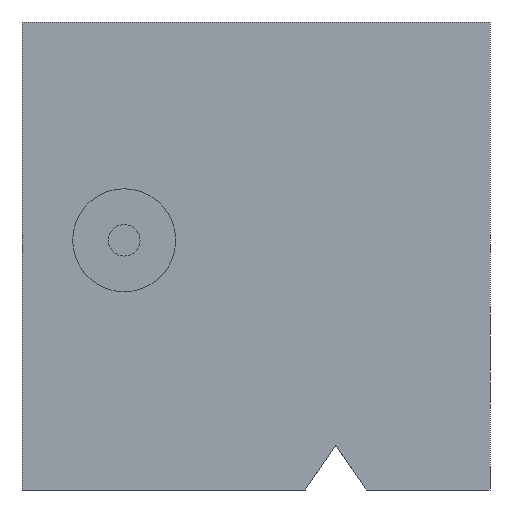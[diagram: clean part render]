
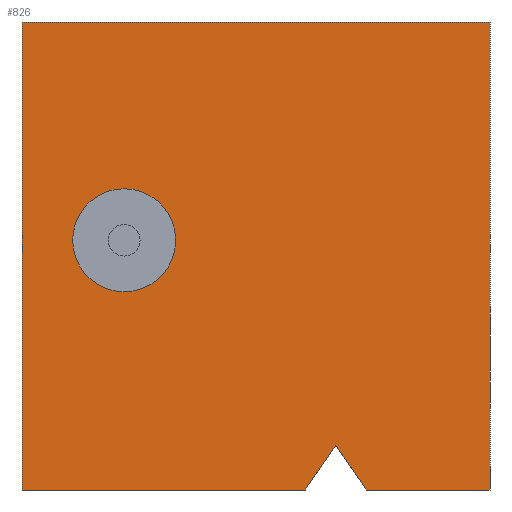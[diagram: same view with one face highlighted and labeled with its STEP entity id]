
A CAD part, left-side view. The second image highlights one B-rep face of the part: STEP entity #826.
In plain terms, the highlighted planar face has unit normal (-1, 0, 0).
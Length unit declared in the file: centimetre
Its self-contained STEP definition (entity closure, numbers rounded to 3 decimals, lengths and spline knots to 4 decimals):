
#21 = LINE ( 'NONE', #404, #375 ) ;
#23 = ORIENTED_EDGE ( 'NONE', *, *, #548, .T. ) ;
#34 = DIRECTION ( 'NONE',  ( 0., -1., 0. ) ) ;
#69 = CARTESIAN_POINT ( 'NONE',  ( 0., 329.6012, 95.3428 ) ) ;
#81 = LINE ( 'NONE', #69, #947 ) ;
#82 = EDGE_CURVE ( 'NONE', #157, #607, #126, .T. ) ;
#84 = DIRECTION ( 'NONE',  ( 0., -0.565, 0.825 ) ) ;
#101 = CARTESIAN_POINT ( 'NONE',  ( 0., 329.6012, 95.3428 ) ) ;
#119 = CARTESIAN_POINT ( 'NONE',  ( 0., 781.7001, 643.6645 ) ) ;
#124 = CARTESIAN_POINT ( 'NONE',  ( 0., 1000., 1000. ) ) ;
#126 = LINE ( 'NONE', #671, #842 ) ;
#135 = CARTESIAN_POINT ( 'NONE',  ( 0., 781.7001, 533.6208 ) ) ;
#151 = DIRECTION ( 'NONE',  ( 0., 0., 1. ) ) ;
#157 = VERTEX_POINT ( 'NONE', #229 ) ;
#164 = ORIENTED_EDGE ( 'NONE', *, *, #626, .T. ) ;
#226 = DIRECTION ( 'NONE',  ( 0., -1., 0. ) ) ;
#229 = CARTESIAN_POINT ( 'NONE',  ( 0., 0., 1000. ) ) ;
#254 = ORIENTED_EDGE ( 'NONE', *, *, #1133, .F. ) ;
#259 = AXIS2_PLACEMENT_3D ( 'NONE', #368, #817, #725 ) ;
#265 = EDGE_CURVE ( 'NONE', #1073, #474, #81, .T. ) ;
#296 = VECTOR ( 'NONE', #226, 100. ) ;
#300 = LINE ( 'NONE', #124, #296 ) ;
#341 = EDGE_LOOP ( 'NONE', ( #414, #164, #972, #720, #254, #23, #398 ) ) ;
#344 = DIRECTION ( 'NONE',  ( 0., -0.565, -0.825 ) ) ;
#366 = CARTESIAN_POINT ( 'NONE',  ( 0., 264.2435, 0. ) ) ;
#368 = CARTESIAN_POINT ( 'NONE',  ( 0., 1000., 1000. ) ) ;
#372 = CIRCLE ( 'NONE', #1024, 110.0437 ) ;
#375 = VECTOR ( 'NONE', #384, 100. ) ;
#382 = CARTESIAN_POINT ( 'NONE',  ( 0., 1000., 1000. ) ) ;
#384 = DIRECTION ( 'NONE',  ( 0., -1., 0. ) ) ;
#398 = ORIENTED_EDGE ( 'NONE', *, *, #585, .T. ) ;
#404 = CARTESIAN_POINT ( 'NONE',  ( 0., 1000., 0. ) ) ;
#414 = ORIENTED_EDGE ( 'NONE', *, *, #265, .T. ) ;
#429 = DIRECTION ( 'NONE',  ( 0., 0., 1. ) ) ;
#474 = VERTEX_POINT ( 'NONE', #101 ) ;
#487 = PLANE ( 'NONE',  #259 ) ;
#489 = DIRECTION ( 'NONE',  ( 0., 0., -1. ) ) ;
#548 = EDGE_CURVE ( 'NONE', #1148, #1060, #827, .T. ) ;
#575 = LINE ( 'NONE', #660, #1153 ) ;
#580 = LINE ( 'NONE', #757, #820 ) ;
#585 = EDGE_CURVE ( 'NONE', #1060, #1073, #575, .T. ) ;
#607 = VERTEX_POINT ( 'NONE', #836 ) ;
#610 = DIRECTION ( 'NONE',  ( -1., 0., 0. ) ) ;
#626 = EDGE_CURVE ( 'NONE', #474, #950, #580, .T. ) ;
#655 = EDGE_CURVE ( 'NONE', #805, #732, #1041, .T. ) ;
#660 = CARTESIAN_POINT ( 'NONE',  ( 0., 1000., 0. ) ) ;
#663 = EDGE_CURVE ( 'NONE', #732, #805, #372, .T. ) ;
#671 = CARTESIAN_POINT ( 'NONE',  ( 0., 0., 1000. ) ) ;
#675 = CARTESIAN_POINT ( 'NONE',  ( 0., 1000., 0. ) ) ;
#710 = VECTOR ( 'NONE', #738, 100. ) ;
#720 = ORIENTED_EDGE ( 'NONE', *, *, #82, .F. ) ;
#725 = DIRECTION ( 'NONE',  ( 0., 0., -1. ) ) ;
#732 = VERTEX_POINT ( 'NONE', #119 ) ;
#738 = DIRECTION ( 'NONE',  ( 0., 0., -1. ) ) ;
#757 = CARTESIAN_POINT ( 'NONE',  ( 0., 264.2435, 0. ) ) ;
#805 = VERTEX_POINT ( 'NONE', #925 ) ;
#817 = DIRECTION ( 'NONE',  ( 1., 0., 0. ) ) ;
#820 = VECTOR ( 'NONE', #344, 100. ) ;
#826 = ADVANCED_FACE ( 'NONE', ( #902, #919 ), #487, .F. ) ;
#827 = LINE ( 'NONE', #382, #710 ) ;
#836 = CARTESIAN_POINT ( 'NONE',  ( 0., 0., 0. ) ) ;
#842 = VECTOR ( 'NONE', #489, 100. ) ;
#869 = CARTESIAN_POINT ( 'NONE',  ( 0., 781.7001, 533.6208 ) ) ;
#876 = AXIS2_PLACEMENT_3D ( 'NONE', #869, #933, #151 ) ;
#880 = ORIENTED_EDGE ( 'NONE', *, *, #663, .F. ) ;
#888 = EDGE_LOOP ( 'NONE', ( #880, #966 ) ) ;
#902 = FACE_BOUND ( 'NONE', #888, .T. ) ;
#919 = FACE_OUTER_BOUND ( 'NONE', #341, .T. ) ;
#924 = CARTESIAN_POINT ( 'NONE',  ( 0., 394.9589, 0. ) ) ;
#925 = CARTESIAN_POINT ( 'NONE',  ( 0., 781.7001, 423.577 ) ) ;
#933 = DIRECTION ( 'NONE',  ( -1., 0., 0. ) ) ;
#947 = VECTOR ( 'NONE', #84, 100. ) ;
#950 = VERTEX_POINT ( 'NONE', #366 ) ;
#966 = ORIENTED_EDGE ( 'NONE', *, *, #655, .F. ) ;
#972 = ORIENTED_EDGE ( 'NONE', *, *, #1031, .T. ) ;
#1024 = AXIS2_PLACEMENT_3D ( 'NONE', #135, #610, #429 ) ;
#1031 = EDGE_CURVE ( 'NONE', #950, #607, #21, .T. ) ;
#1041 = CIRCLE ( 'NONE', #876, 110.0437 ) ;
#1060 = VERTEX_POINT ( 'NONE', #675 ) ;
#1073 = VERTEX_POINT ( 'NONE', #924 ) ;
#1127 = CARTESIAN_POINT ( 'NONE',  ( 0., 1000., 1000. ) ) ;
#1133 = EDGE_CURVE ( 'NONE', #1148, #157, #300, .T. ) ;
#1148 = VERTEX_POINT ( 'NONE', #1127 ) ;
#1153 = VECTOR ( 'NONE', #34, 100. ) ;
